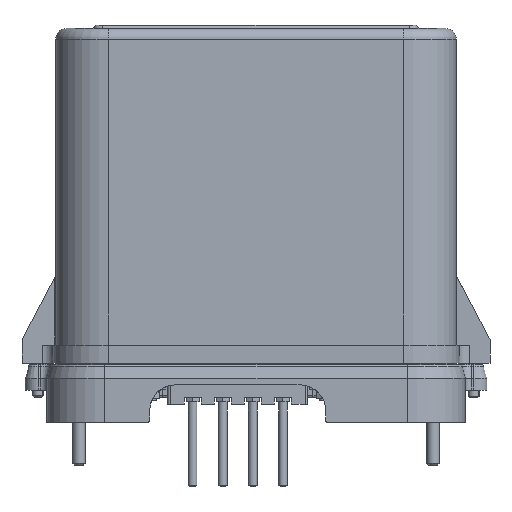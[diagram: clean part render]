
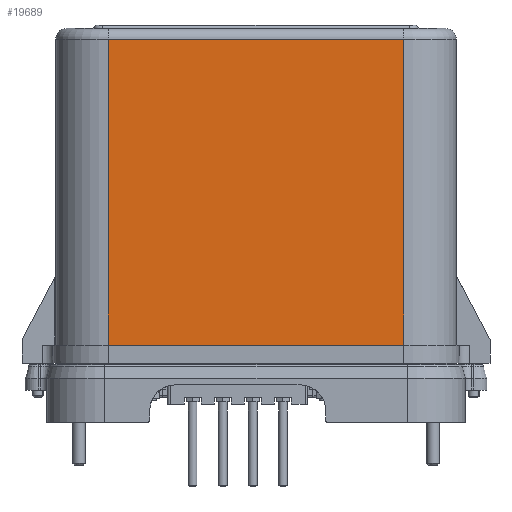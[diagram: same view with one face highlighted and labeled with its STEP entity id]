
A CAD part, left-side view. The second image highlights one B-rep face of the part: STEP entity #19689.
In plain terms, the highlighted planar face has unit normal (-1, 0, 0).
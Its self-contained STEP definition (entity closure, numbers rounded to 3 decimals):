
#19689=ADVANCED_FACE('',(#38946),#38948,.F.);
#38946=FACE_BOUND('',#38947,.T.);
#38947=EDGE_LOOP('',(#50177,#50178,#50179,#50180));
#38948=PLANE('',#38949);
#38949=AXIS2_PLACEMENT_3D('',#38950,#38951,#38952);
#38950=CARTESIAN_POINT('',(4.25,28.75,185.));
#38951=DIRECTION('',(1.,0.,0.));
#38952=DIRECTION('',(0.,0.,-1.));
#50177=ORIENTED_EDGE('',*,*,#55909,.T.);
#50178=ORIENTED_EDGE('',*,*,#55853,.F.);
#50179=ORIENTED_EDGE('',*,*,#55906,.F.);
#50180=ORIENTED_EDGE('',*,*,#55910,.T.);
#55853=EDGE_CURVE('',#64703,#64705,#64706,.T.);
#55906=EDGE_CURVE('',#64800,#64703,#64801,.T.);
#55909=EDGE_CURVE('',#64805,#64705,#64806,.T.);
#55910=EDGE_CURVE('',#64800,#64805,#64807,.T.);
#64703=VERTEX_POINT('',#97002);
#64705=VERTEX_POINT('',#97007);
#64706=LINE('',#97008,#97009);
#64800=VERTEX_POINT('',#97220);
#64801=LINE('',#97221,#97222);
#64805=VERTEX_POINT('',#97233);
#64806=LINE('',#97234,#97235);
#64807=LINE('',#97237,#97238);
#97002=CARTESIAN_POINT('',(4.25,28.75,36.));
#97007=CARTESIAN_POINT('',(4.25,166.25,36.));
#97008=CARTESIAN_POINT('',(4.25,28.75,36.));
#97009=VECTOR('',#97010,1.);
#97010=DIRECTION('',(0.,1.,0.));
#97220=CARTESIAN_POINT('',(4.25,28.75,178.5));
#97221=CARTESIAN_POINT('',(4.25,28.75,178.5));
#97222=VECTOR('',#97223,1.);
#97223=DIRECTION('',(0.,0.,-1.));
#97233=CARTESIAN_POINT('',(4.25,166.25,178.5));
#97234=CARTESIAN_POINT('',(4.25,166.25,178.5));
#97235=VECTOR('',#97236,1.);
#97236=DIRECTION('',(0.,0.,-1.));
#97237=CARTESIAN_POINT('',(4.25,28.75,178.5));
#97238=VECTOR('',#97239,1.);
#97239=DIRECTION('',(0.,1.,0.));
